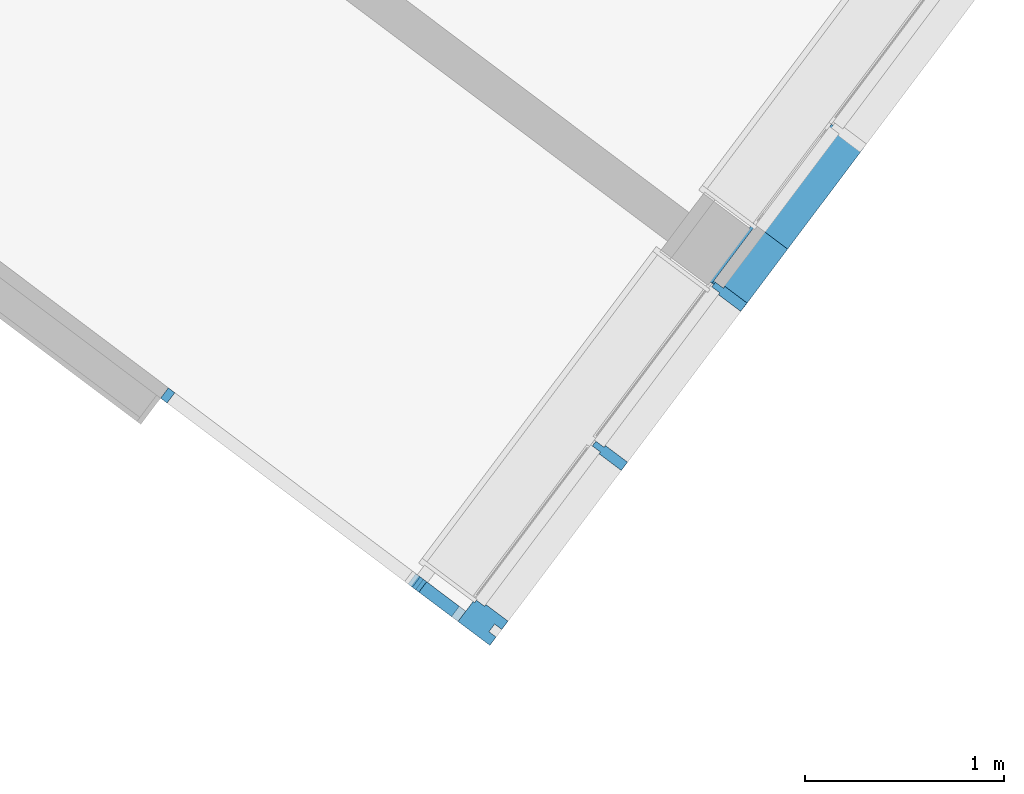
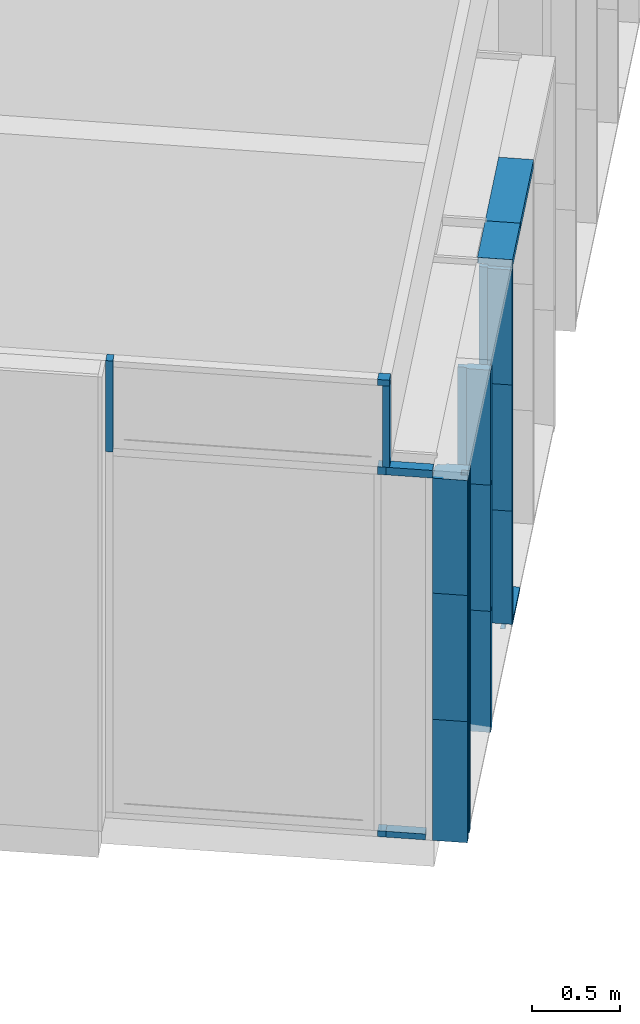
# One storey, part 84 of 243: 19 members, 2 elements without a shape of their own.
"""IFC2X3 building model written with IfcOpenShell, lengths in metres."""

from ifc_helpers import new_model, entity, si_unit, converted_unit, derived_unit, direction, frame, frame_2d, origin, origin_2d_with_axis, place, context, subcontext, project, spatial, polyline, circle_curve, parameter, trimmed, segment, composite_curve, rectangle, outline, extrude, source, transform, mapped, material, type_object, type_shapes, element, aggregate, save


model = new_model("IFC2X3")

# Units and contexts
model_context = context("Model", 3, precision=1e-05, world=origin(), true_north=direction((6.123031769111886e-17, 1.0)))
body_context = subcontext(model_context, "Body", "Model", "MODEL_VIEW")
ifc_project = project(units=[si_unit("LENGTHUNIT", "METRE"), si_unit("AREAUNIT", "SQUARE_METRE"), si_unit("VOLUMEUNIT", "CUBIC_METRE"), converted_unit("PLANEANGLEUNIT", "DEGREE", entity("IfcRatioMeasure", 0.017453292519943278), si_unit("PLANEANGLEUNIT", "RADIAN"), dimensions=[0, 0, 0, 0, 0, 0, 0]), si_unit("MASSUNIT", "GRAM", prefix="KILO"), derived_unit("MASSDENSITYUNIT", [(si_unit("MASSUNIT", "GRAM", prefix="KILO"), 1), (si_unit("LENGTHUNIT", "METRE"), -3)]), derived_unit("IONCONCENTRATIONUNIT", [(si_unit("MASSUNIT", "GRAM", prefix="KILO"), 1), (si_unit("LENGTHUNIT", "METRE"), -3)]), derived_unit("MOMENTOFINERTIAUNIT", [(si_unit("LENGTHUNIT", "METRE"), 4)]), si_unit("TIMEUNIT", "SECOND"), si_unit("FREQUENCYUNIT", "HERTZ"), si_unit("THERMODYNAMICTEMPERATUREUNIT", "DEGREE_CELSIUS"), derived_unit("THERMALTRANSMITTANCEUNIT", [(si_unit("MASSUNIT", "GRAM", prefix="KILO"), 1), (si_unit("THERMODYNAMICTEMPERATUREUNIT", "KELVIN"), -1), (si_unit("TIMEUNIT", "SECOND"), -3)]), derived_unit("THERMALCONDUCTANCEUNIT", [(si_unit("MASSUNIT", "GRAM", prefix="KILO"), 1), (si_unit("THERMODYNAMICTEMPERATUREUNIT", "KELVIN"), -1), (si_unit("TIMEUNIT", "SECOND"), -3), (si_unit("LENGTHUNIT", "METRE"), 1)]), derived_unit("VOLUMETRICFLOWRATEUNIT", [(si_unit("LENGTHUNIT", "METRE"), 3), (si_unit("TIMEUNIT", "SECOND"), -1)]), derived_unit("MASSFLOWRATEUNIT", [(si_unit("MASSUNIT", "GRAM", prefix="KILO"), 1), (si_unit("TIMEUNIT", "SECOND"), -1)]), derived_unit("ROTATIONALFREQUENCYUNIT", [(si_unit("TIMEUNIT", "SECOND"), -1)]), si_unit("ELECTRICCURRENTUNIT", "AMPERE"), si_unit("ELECTRICVOLTAGEUNIT", "VOLT"), si_unit("POWERUNIT", "WATT"), si_unit("FORCEUNIT", "NEWTON", prefix="KILO"), si_unit("ILLUMINANCEUNIT", "LUX"), si_unit("LUMINOUSFLUXUNIT", "LUMEN"), si_unit("LUMINOUSINTENSITYUNIT", "CANDELA"), derived_unit("USERDEFINED", [(si_unit("MASSUNIT", "GRAM", prefix="KILO"), -1), (si_unit("LENGTHUNIT", "METRE"), -2), (si_unit("TIMEUNIT", "SECOND"), 3), (si_unit("LUMINOUSFLUXUNIT", "LUMEN"), 1)]), derived_unit("USERDEFINED", [(si_unit("MASSUNIT", "GRAM", prefix="KILO"), 1), (si_unit("TIMEUNIT", "SECOND"), -3), (si_unit("LENGTHUNIT", "METRE"), 3), (si_unit("ELECTRICCURRENTUNIT", "AMPERE"), -2)]), derived_unit("SOUNDPOWERUNIT", [(si_unit("MASSUNIT", "GRAM", prefix="KILO"), 1), (si_unit("TIMEUNIT", "SECOND"), -3), (si_unit("LENGTHUNIT", "METRE"), 2)]), derived_unit("SOUNDPRESSUREUNIT", [(si_unit("MASSUNIT", "GRAM", prefix="KILO"), 1), (si_unit("LENGTHUNIT", "METRE"), -1), (si_unit("TIMEUNIT", "SECOND"), -2)]), derived_unit("LINEARVELOCITYUNIT", [(si_unit("LENGTHUNIT", "METRE"), 1), (si_unit("TIMEUNIT", "SECOND"), -1)]), si_unit("PRESSUREUNIT", "PASCAL"), derived_unit("USERDEFINED", [(si_unit("MASSUNIT", "GRAM", prefix="KILO"), 1), (si_unit("LENGTHUNIT", "METRE"), -2), (si_unit("TIMEUNIT", "SECOND"), -2)]), derived_unit("LINEARFORCEUNIT", [(si_unit("MASSUNIT", "GRAM", prefix="KILO"), 1), (si_unit("TIMEUNIT", "SECOND"), -2)]), derived_unit("PLANARFORCEUNIT", [(si_unit("MASSUNIT", "GRAM", prefix="KILO"), 1), (si_unit("LENGTHUNIT", "METRE"), -1), (si_unit("TIMEUNIT", "SECOND"), -2)]), derived_unit("SPECIFICHEATCAPACITYUNIT", [(si_unit("THERMODYNAMICTEMPERATUREUNIT", "KELVIN"), -1), (si_unit("LENGTHUNIT", "METRE"), 2), (si_unit("TIMEUNIT", "SECOND"), -2)]), derived_unit("HEATINGVALUEUNIT", [(si_unit("LENGTHUNIT", "METRE"), 2), (si_unit("TIMEUNIT", "SECOND"), -2)]), derived_unit("VAPORPERMEABILITYUNIT", [(si_unit("LENGTHUNIT", "METRE"), -1), (si_unit("TIMEUNIT", "SECOND"), 1)]), derived_unit("DYNAMICVISCOSITYUNIT", [(si_unit("MASSUNIT", "GRAM", prefix="KILO"), 1), (si_unit("TIMEUNIT", "SECOND"), -1), (si_unit("LENGTHUNIT", "METRE"), -1)]), derived_unit("THERMALEXPANSIONCOEFFICIENTUNIT", [(si_unit("THERMODYNAMICTEMPERATUREUNIT", "KELVIN"), -1)]), derived_unit("MODULUSOFELASTICITYUNIT", [(si_unit("MASSUNIT", "GRAM", prefix="KILO"), 1), (si_unit("LENGTHUNIT", "METRE"), -1), (si_unit("TIMEUNIT", "SECOND"), -2)]), derived_unit("ISOTHERMALMOISTURECAPACITYUNIT", [(si_unit("LENGTHUNIT", "METRE"), 3), (si_unit("MASSUNIT", "GRAM", prefix="KILO"), -1)]), derived_unit("MOISTUREDIFFUSIVITYUNIT", [(si_unit("TIMEUNIT", "SECOND"), -1), (si_unit("LENGTHUNIT", "METRE"), 2)])], contexts=[model_context])

# Site, building, storey
site_placement = place(None, frame((0.0, 0.0, 235.0), z_axis=(0.0, 0.0, 1.0), x_axis=(-0.7996477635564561, 0.6004693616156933, 0.0)))
site = spatial("IfcSite", under=ifc_project, at=site_placement, Name="Default", CompositionType="ELEMENT")
building_placement = place(site_placement, origin())
building = spatial("IfcBuilding", under=site, at=building_placement, CompositionType="ELEMENT")
storey_placement = place(building_placement, origin())
storey = spatial("IfcBuildingStorey", under=building, at=storey_placement, Name="P0- Escola", CompositionType="ELEMENT", Elevation=0.0)

# Curtain wall, members
curtain_wall_type_1 = type_object("IfcCurtainWallType", Name="Muro cortina:MC- EXT- MC2", PredefinedType="NOTDEFINED")
curtain_wall_1_placement = place(storey_placement, origin())
curtain_wall_1 = element("IfcCurtainWall", 1, at=curtain_wall_1_placement, inside=storey, type_object=curtain_wall_type_1, Name="Muro cortina:MC- EXT- MC2", ObjectType="Muro cortina:MC- EXT- MC2")
ifc_material = material(Name="_Alumini- T1- Perfil")
member_type_1 = type_object("IfcMemberType", Name="Montante rectangular:MC- Alu- 140x52,5 cm- Fa patis- Centre", PredefinedType="MULLION", material=ifc_material)
shared_shape_1 = source(origin(), body_context, "Body", "SweptSolid", [
    extrude(outline(polyline([(-0.11699999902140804, -0.026250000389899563), (0.021999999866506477, -0.026250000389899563), (0.021999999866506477, -0.01500000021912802), (0.07299999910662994, -0.01500000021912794), (0.07299999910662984, 0.015000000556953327), (0.02200000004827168, 0.015000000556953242), (0.02200000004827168, 0.026250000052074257), (-0.11699999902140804, 0.026250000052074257), (-0.11699999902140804, -0.026250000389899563)])), frame((0.0, 0.022999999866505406, -0.8400000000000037), z_axis=(0.0, 0.0, 1.0), x_axis=(0.0, -1.0, 0.0)), (0.0, 0.0, 1.0), 0.8400000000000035),
])
type_shapes(member_type_1, [shared_shape_1])
member_1_placement = place(curtain_wall_1_placement, frame((28.345147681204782, -21.415191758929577, -0.02), z_axis=(0.0, 0.0, -1.0), x_axis=(0.0, -1.0, 0.0)))
member_1 = element("IfcMember", 2, at=member_1_placement, type_object=member_type_1, material=ifc_material, Name="Montante rectangular:MC- Alu- 140x52,5 cm- Fa patis- Centre", ObjectType="Montante rectangular:MC- Alu- 140x52,5 cm- Fa patis- Centre", context=body_context, shape_type="MappedRepresentation", body=[
    mapped(shared_shape_1, transform((0.0, 0.0, 0.0), scale=1.0)),
])
member_type_2 = type_object("IfcMemberType", Name="Montante rectangular:MC- Alu- 140x52,5 cm- Fa patis- Centre", PredefinedType="MULLION", material=ifc_material)
shared_shape_2 = source(origin(), body_context, "Body", "SweptSolid", [
    extrude(outline(polyline([(-0.11699999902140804, -0.026250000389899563), (0.021999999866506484, -0.026250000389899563), (0.021999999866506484, -0.01500000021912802), (0.07299999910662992, -0.01500000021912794), (0.07299999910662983, 0.015000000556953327), (0.022000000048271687, 0.015000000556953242), (0.022000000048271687, 0.026250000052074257), (-0.11699999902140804, 0.026250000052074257), (-0.11699999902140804, -0.026250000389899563)])), frame((0.0, 0.022999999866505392, -0.7850000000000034), z_axis=(0.0, 0.0, 1.0), x_axis=(0.0, -1.0, 0.0)), (0.0, 0.0, 1.0), 0.7850000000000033),
])
type_shapes(member_type_2, [shared_shape_2])
member_2_placement = place(curtain_wall_1_placement, frame((28.34514768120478, -22.415191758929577, 0.035000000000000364), z_axis=(0.0, 0.0, -1.0), x_axis=(0.0, -1.0, 0.0)))
member_2 = element("IfcMember", 3, at=member_2_placement, type_object=member_type_2, material=ifc_material, Name="Montante rectangular:MC- Alu- 140x52,5 cm- Fa patis- Centre", ObjectType="Montante rectangular:MC- Alu- 140x52,5 cm- Fa patis- Centre", context=body_context, shape_type="MappedRepresentation", body=[
    mapped(shared_shape_2, transform((0.0, 0.0, 0.0), scale=1.0)),
])
member_type_3 = type_object("IfcMemberType", Name="Montante rectangular:MC- Alu- 140x52,5 cm- Fa patis- Centre", PredefinedType="MULLION", material=ifc_material)
shared_shape_3 = source(origin(), body_context, "Body", "SweptSolid", [
    extrude(outline(polyline([(-0.11699999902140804, -0.026250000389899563), (0.021999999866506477, -0.026250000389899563), (0.021999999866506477, -0.01500000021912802), (0.07299999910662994, -0.01500000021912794), (0.07299999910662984, 0.015000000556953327), (0.02200000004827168, 0.015000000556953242), (0.02200000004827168, 0.026250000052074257), (-0.11699999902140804, 0.026250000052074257), (-0.11699999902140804, -0.026250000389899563)])), frame((0.0, 0.022999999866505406, -0.8750000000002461), z_axis=(0.0, 0.0, 1.0), x_axis=(0.0, -1.0, 0.0)), (0.0, 0.0, 1.0), 0.8750000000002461),
])
type_shapes(member_type_3, [shared_shape_3])
member_3_placement = place(curtain_wall_1_placement, frame((28.345147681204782, -21.415191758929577, 0.8200000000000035), z_axis=(0.0, 0.0, -1.0), x_axis=(0.0, -1.0, 0.0)))
member_3 = element("IfcMember", 4, at=member_3_placement, type_object=member_type_3, material=ifc_material, Name="Montante rectangular:MC- Alu- 140x52,5 cm- Fa patis- Centre", ObjectType="Montante rectangular:MC- Alu- 140x52,5 cm- Fa patis- Centre", context=body_context, shape_type="MappedRepresentation", body=[
    mapped(shared_shape_3, transform((0.0, 0.0, 0.0), scale=1.0)),
])
member_4_placement = place(curtain_wall_1_placement, frame((28.34514768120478, -22.415191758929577, 0.8200000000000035), z_axis=(0.0, 0.0, -1.0), x_axis=(0.0, -1.0, 0.0)))
member_4 = element("IfcMember", 5, at=member_4_placement, type_object=member_type_3, material=ifc_material, Name="Montante rectangular:MC- Alu- 140x52,5 cm- Fa patis- Centre", ObjectType="Montante rectangular:MC- Alu- 140x52,5 cm- Fa patis- Centre", context=body_context, shape_type="MappedRepresentation", body=[
    mapped(shared_shape_3, transform((0.0, 0.0, 0.0), scale=1.0)),
])
member_type_4 = type_object("IfcMemberType", Name="Montante rectangular:MC- Alu- 140x52,5 cm- Fa patis- Cantonada", PredefinedType="MULLION", material=ifc_material)
shared_shape_4 = source(origin(), body_context, "Body", "SweptSolid", [
    extrude(outline(polyline([(-0.09566666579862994, -0.05708333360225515), (0.04333333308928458, -0.05708333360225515), (0.04333333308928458, -0.0458333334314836), (0.09433333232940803, -0.04583333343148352), (0.09433333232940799, -0.03083333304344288), (0.10433333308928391, -0.03083333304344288), (0.10433333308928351, 0.09541666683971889), (-0.09566666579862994, 0.09541666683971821), (-0.09566666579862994, 0.042916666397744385), (-0.05066666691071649, 0.042916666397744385), (-0.050666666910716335, -0.004583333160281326), (-0.09566666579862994, -0.004583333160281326), (-0.09566666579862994, -0.05708333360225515)])), frame((-0.09541666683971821, 0.04433333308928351, -0.8400000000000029), z_axis=(0.0, 0.0, 1.0), x_axis=(0.0, -1.0, 0.0)), (0.0, 0.0, 1.0), 0.8400000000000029),
])
type_shapes(member_type_4, [shared_shape_4])
member_5_placement = place(curtain_wall_1_placement, frame((28.345147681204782, -20.288941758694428, 0.8200000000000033), z_axis=(0.0, 0.0, 1.0), x_axis=(0.0, 1.0, 0.0)))
member_5 = element("IfcMember", 6, at=member_5_placement, type_object=member_type_4, material=ifc_material, Name="Montante rectangular:MC- Alu- 140x52,5 cm- Fa patis- Cantonada", ObjectType="Montante rectangular:MC- Alu- 140x52,5 cm- Fa patis- Cantonada", context=body_context, shape_type="MappedRepresentation", body=[
    mapped(shared_shape_4, transform((0.0, 0.0, 0.0), scale=1.0)),
])
member_type_5 = type_object("IfcMemberType", Name="Montante rectangular:MC- Alu- 140x52,5 cm- Fa patis- Cantonada", PredefinedType="MULLION", material=ifc_material)
shared_shape_5 = source(origin(), body_context, "Body", "SweptSolid", [
    extrude(outline(polyline([(-0.09566666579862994, -0.05708333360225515), (0.04333333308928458, -0.05708333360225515), (0.04333333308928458, -0.0458333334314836), (0.09433333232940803, -0.04583333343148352), (0.09433333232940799, -0.03083333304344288), (0.10433333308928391, -0.03083333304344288), (0.10433333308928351, 0.09541666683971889), (-0.09566666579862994, 0.09541666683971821), (-0.09566666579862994, 0.042916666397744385), (-0.05066666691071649, 0.042916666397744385), (-0.050666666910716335, -0.004583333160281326), (-0.09566666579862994, -0.004583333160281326), (-0.09566666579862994, -0.05708333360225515)])), frame((-0.09541666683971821, 0.04433333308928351, -0.7974999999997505), z_axis=(0.0, 0.0, 1.0), x_axis=(0.0, -1.0, 0.0)), (0.0, 0.0, 1.0), 0.7974999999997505),
])
type_shapes(member_type_5, [shared_shape_5])
member_6_placement = place(curtain_wall_1_placement, frame((28.345147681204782, -20.288941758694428, 2.4924999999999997), z_axis=(0.0, 0.0, 1.0), x_axis=(0.0, 1.0, 0.0)))
member_6 = element("IfcMember", 7, at=member_6_placement, type_object=member_type_5, material=ifc_material, Name="Montante rectangular:MC- Alu- 140x52,5 cm- Fa patis- Cantonada", ObjectType="Montante rectangular:MC- Alu- 140x52,5 cm- Fa patis- Cantonada", context=body_context, shape_type="MappedRepresentation", body=[
    mapped(shared_shape_5, transform((0.0, 0.0, 0.0), scale=1.0)),
])
member_type_6 = type_object("IfcMemberType", Name="Montante rectangular:MC- Alu- 140x52,5 cm- Fa patis- Cantonada", PredefinedType="MULLION", material=ifc_material)
shared_shape_6 = source(origin(), body_context, "Body", "SweptSolid", [
    extrude(outline(polyline([(-0.09566666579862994, -0.05708333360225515), (0.04333333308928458, -0.05708333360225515), (0.04333333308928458, -0.0458333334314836), (0.09433333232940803, -0.04583333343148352), (0.09433333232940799, -0.03083333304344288), (0.10433333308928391, -0.03083333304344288), (0.10433333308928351, 0.09541666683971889), (-0.09566666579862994, 0.09541666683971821), (-0.09566666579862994, 0.042916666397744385), (-0.05066666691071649, 0.042916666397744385), (-0.050666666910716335, -0.004583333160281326), (-0.09566666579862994, -0.004583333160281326), (-0.09566666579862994, -0.05708333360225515)])), frame((-0.09541666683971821, 0.04433333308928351, -0.8750000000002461), z_axis=(0.0, 0.0, 1.0), x_axis=(0.0, -1.0, 0.0)), (0.0, 0.0, 1.0), 0.8750000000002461),
])
type_shapes(member_type_6, [shared_shape_6])
member_7_placement = place(curtain_wall_1_placement, frame((28.345147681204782, -20.288941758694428, 1.6950000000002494), z_axis=(0.0, 0.0, 1.0), x_axis=(0.0, 1.0, 0.0)))
member_7 = element("IfcMember", 8, at=member_7_placement, type_object=member_type_6, material=ifc_material, Name="Montante rectangular:MC- Alu- 140x52,5 cm- Fa patis- Cantonada", ObjectType="Montante rectangular:MC- Alu- 140x52,5 cm- Fa patis- Cantonada", context=body_context, shape_type="MappedRepresentation", body=[
    mapped(shared_shape_6, transform((0.0, 0.0, 0.0), scale=1.0)),
])
member_type_7 = type_object("IfcMemberType", Name="Montante rectangular:MC- Alu- 140x52,5 cm- Fa patis- Centre", PredefinedType="MULLION", material=ifc_material)
shared_shape_7 = source(origin(), body_context, "Body", "SweptSolid", [
    extrude(outline(polyline([(-0.11699999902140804, -0.026250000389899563), (0.021999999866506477, -0.026250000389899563), (0.021999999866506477, -0.01500000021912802), (0.07299999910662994, -0.01500000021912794), (0.07299999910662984, 0.015000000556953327), (0.02200000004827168, 0.015000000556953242), (0.02200000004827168, 0.026250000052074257), (-0.11699999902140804, 0.026250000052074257), (-0.11699999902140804, -0.026250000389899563)])), frame((0.0, 0.022999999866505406, -0.79749999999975), z_axis=(0.0, 0.0, 1.0), x_axis=(0.0, -1.0, 0.0)), (0.0, 0.0, 1.0), 0.79749999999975),
])
type_shapes(member_type_7, [shared_shape_7])
member_8_placement = place(curtain_wall_1_placement, frame((28.345147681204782, -21.415191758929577, 1.6950000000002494), z_axis=(0.0, 0.0, -1.0), x_axis=(0.0, -1.0, 0.0)))
member_8 = element("IfcMember", 9, at=member_8_placement, type_object=member_type_7, material=ifc_material, Name="Montante rectangular:MC- Alu- 140x52,5 cm- Fa patis- Centre", ObjectType="Montante rectangular:MC- Alu- 140x52,5 cm- Fa patis- Centre", context=body_context, shape_type="MappedRepresentation", body=[
    mapped(shared_shape_7, transform((0.0, 0.0, 0.0), scale=1.0)),
])
member_9_placement = place(curtain_wall_1_placement, frame((28.34514768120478, -22.415191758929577, 1.6950000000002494), z_axis=(0.0, 0.0, -1.0), x_axis=(0.0, -1.0, 0.0)))
member_9 = element("IfcMember", 10, at=member_9_placement, type_object=member_type_7, material=ifc_material, Name="Montante rectangular:MC- Alu- 140x52,5 cm- Fa patis- Centre", ObjectType="Montante rectangular:MC- Alu- 140x52,5 cm- Fa patis- Centre", context=body_context, shape_type="MappedRepresentation", body=[
    mapped(shared_shape_7, transform((0.0, 0.0, 0.0), scale=1.0)),
])

curtain_wall_type_2 = type_object("IfcCurtainWallType", Name="Muro cortina:MC- EXT- AL1- Fa porxo", PredefinedType="NOTDEFINED")
curtain_wall_2_placement = place(storey_placement, origin())
curtain_wall_2 = element("IfcCurtainWall", 11, at=curtain_wall_2_placement, inside=storey, type_object=curtain_wall_type_2, Name="Muro cortina:MC- EXT- AL1- Fa porxo", ObjectType="Muro cortina:MC- EXT- AL1- Fa porxo")
member_type_8 = type_object("IfcMemberType", Name="Montante rectangular:MC- Alu- 65x41 cm- Fa Porxo- Centre", PredefinedType="MULLION", material=ifc_material)
shared_shape_8 = source(origin(), body_context, "Body", "SweptSolid", [
    extrude(rectangle(XDim=0.06500000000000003, YDim=0.04100000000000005, at=frame_2d((0.0, 5.204170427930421e-18), x_axis=(1.0, 0.0))), frame((-0.020499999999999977, 0.032499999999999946, -0.22566666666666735), z_axis=(0.0, 0.0, 1.0), x_axis=(0.0, -1.0, 0.0)), (0.0, 0.0, 1.0), 0.22566666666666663),
])
type_shapes(member_type_8, [shared_shape_8])
member_10_placement = place(curtain_wall_2_placement, frame((28.44614768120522, -20.288941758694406, -0.020000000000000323), z_axis=(-1.0, 0.0, 0.0), x_axis=(0.0, 0.0, -1.0)))
member_10 = element("IfcMember", 12, at=member_10_placement, type_object=member_type_8, material=ifc_material, Name="Montante rectangular:MC- Alu- 65x41 cm- Fa Porxo- Centre", ObjectType="Montante rectangular:MC- Alu- 65x41 cm- Fa Porxo- Centre", context=body_context, shape_type="MappedRepresentation", body=[
    mapped(shared_shape_8, transform((0.0, 0.0, 0.0), scale=1.0)),
])
member_type_9 = type_object("IfcMemberType", Name="Montante rectangular:MC- Alu- 65x41 cm- Fa Porxo- Centre", PredefinedType="MULLION", material=ifc_material)
shared_shape_9 = source(origin(), body_context, "Body", "SweptSolid", [
    extrude(rectangle(XDim=0.06500000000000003, YDim=0.041000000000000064, at=origin_2d_with_axis()), frame((-0.02050000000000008, 0.032499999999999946, -0.6312500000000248), z_axis=(0.0, 0.0, 1.0), x_axis=(0.0, -1.0, 0.0)), (0.0, 0.0, 1.0), 0.6312500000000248),
])
type_shapes(member_type_9, [shared_shape_9])
member_11_placement = place(curtain_wall_2_placement, frame((30.275143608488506, -20.288941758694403, 2.51875), z_axis=(0.0, 0.0, -1.0), x_axis=(1.0, 0.0, 0.0)))
member_11 = element("IfcMember", 13, at=member_11_placement, type_object=member_type_9, material=ifc_material, Name="Montante rectangular:MC- Alu- 65x41 cm- Fa Porxo- Centre", ObjectType="Montante rectangular:MC- Alu- 65x41 cm- Fa Porxo- Centre", context=body_context, shape_type="MappedRepresentation", body=[
    mapped(shared_shape_9, transform((0.0, 0.0, 0.0), scale=1.0)),
])
member_type_10 = type_object("IfcMemberType", Name="Montante rectangular:MC- Alu- 65x52,5 cm- Fa Porxo- Centre", PredefinedType="MULLION", material=ifc_material)
shared_shape_10 = source(origin(), body_context, "Body", "SweptSolid", [
    extrude(rectangle(XDim=0.06500000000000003, YDim=0.053000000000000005, at=frame_2d((3.469446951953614e-18, 5.204170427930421e-18), x_axis=(1.0, 0.0))), frame((0.0, 0.03249999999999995, -0.26666666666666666), z_axis=(0.0, 0.0, 1.0), x_axis=(0.0, -1.0, 0.0)), (0.0, 0.0, 1.0), 0.26666666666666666),
])
type_shapes(member_type_10, [shared_shape_10])
member_12_placement = place(curtain_wall_2_placement, frame((28.671814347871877, -20.288941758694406, 2.51875), z_axis=(1.0, 0.0, 0.0), x_axis=(0.0, 0.0, 1.0)))
member_12 = element("IfcMember", 14, at=member_12_placement, type_object=member_type_10, material=ifc_material, Name="Montante rectangular:MC- Alu- 65x52,5 cm- Fa Porxo- Centre", ObjectType="Montante rectangular:MC- Alu- 65x52,5 cm- Fa Porxo- Centre", context=body_context, shape_type="MappedRepresentation", body=[
    mapped(shared_shape_10, transform((0.0, 0.0, 0.0), scale=1.0)),
])
member_type_11 = type_object("IfcMemberType", Name="Montante rectangular:MC- Alu- 65x41 cm- Fa Porxo- Centre", PredefinedType="MULLION", material=ifc_material)
shared_shape_11 = source(origin(), body_context, "Body", "SweptSolid", [
    extrude(rectangle(XDim=0.06500000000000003, YDim=0.041000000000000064, at=origin_2d_with_axis()), frame((-0.02050000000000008, 0.03249999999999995, -0.06833333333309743), z_axis=(0.0, 0.0, 1.0), x_axis=(0.0, -1.0, 0.0)), (0.0, 0.0, 1.0), 0.06833333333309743),
])
type_shapes(member_type_11, [shared_shape_11])
member_13_placement = place(curtain_wall_2_placement, frame((28.719647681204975, -20.288941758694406, 3.150000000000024), z_axis=(1.0, 0.0, 0.0), x_axis=(0.0, 0.0, 1.0)))
member_13 = element("IfcMember", 15, at=member_13_placement, type_object=member_type_11, material=ifc_material, Name="Montante rectangular:MC- Alu- 65x41 cm- Fa Porxo- Centre", ObjectType="Montante rectangular:MC- Alu- 65x41 cm- Fa Porxo- Centre", context=body_context, shape_type="MappedRepresentation", body=[
    mapped(shared_shape_11, transform((0.0, 0.0, 0.0), scale=1.0)),
])
member_type_12 = type_object("IfcMemberType", Name="Montante rectangular:MC- Alu- 65x41 cm- Fa Porxo- Centre", PredefinedType="MULLION", material=ifc_material)
shared_shape_12 = source(origin(), body_context, "Body", "SweptSolid", [
    extrude(rectangle(XDim=0.06500000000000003, YDim=0.041000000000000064, at=frame_2d((0.0, 3.469446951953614e-18), x_axis=(1.0, 0.0))), frame((-0.02049999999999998, 0.032499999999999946, -0.04783333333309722), z_axis=(0.0, 0.0, 1.0), x_axis=(0.0, -1.0, 0.0)), (0.0, 0.0, 1.0), 0.04783333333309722),
])
type_shapes(member_type_12, [shared_shape_12])
member_14_placement = place(curtain_wall_2_placement, frame((28.671814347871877, -20.288941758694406, -0.02000000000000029), z_axis=(-1.0, 0.0, 0.0), x_axis=(0.0, 0.0, -1.0)))
member_14 = element("IfcMember", 16, at=member_14_placement, type_object=member_type_12, material=ifc_material, Name="Montante rectangular:MC- Alu- 65x41 cm- Fa Porxo- Centre", ObjectType="Montante rectangular:MC- Alu- 65x41 cm- Fa Porxo- Centre", context=body_context, shape_type="MappedRepresentation", body=[
    mapped(shared_shape_12, transform((0.0, 0.0, 0.0), scale=1.0)),
])
member_type_13 = type_object("IfcMemberType", Name="Montante rectangular:MC- Alu- 65x52,5 cm- Fa Porxo- Centre", PredefinedType="MULLION", material=ifc_material)
shared_shape_13 = source(origin(), body_context, "Body", "SweptSolid", [
    extrude(rectangle(XDim=0.06500000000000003, YDim=0.053000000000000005, at=frame_2d((3.469446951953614e-18, 5.204170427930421e-18), x_axis=(1.0, 0.0))), frame((0.0, 0.03249999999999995, -0.04783333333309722), z_axis=(0.0, 0.0, 1.0), x_axis=(0.0, -1.0, 0.0)), (0.0, 0.0, 1.0), 0.04783333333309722),
])
type_shapes(member_type_13, [shared_shape_13])
member_15_placement = place(curtain_wall_2_placement, frame((28.719647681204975, -20.288941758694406, 2.51875), z_axis=(1.0, 0.0, 0.0), x_axis=(0.0, 0.0, 1.0)))
member_15 = element("IfcMember", 17, at=member_15_placement, type_object=member_type_13, material=ifc_material, Name="Montante rectangular:MC- Alu- 65x52,5 cm- Fa Porxo- Centre", ObjectType="Montante rectangular:MC- Alu- 65x52,5 cm- Fa Porxo- Centre", context=body_context, shape_type="MappedRepresentation", body=[
    mapped(shared_shape_13, transform((0.0, 0.0, 0.0), scale=1.0)),
])
member_type_14 = type_object("IfcMemberType", Name="Montante rectangular:MC- Alu- 65x41 cm- Fa Porxo- Centre", PredefinedType="MULLION", material=ifc_material)
shared_shape_14 = source(origin(), body_context, "Body", "SweptSolid", [
    extrude(rectangle(XDim=0.06500000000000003, YDim=0.04100000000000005, at=frame_2d((3.469446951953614e-18, 6.938893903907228e-18), x_axis=(1.0, 0.0))), frame((0.0, 0.03249999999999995, -0.5637500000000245), z_axis=(0.0, 0.0, 1.0), x_axis=(0.0, -1.0, 0.0)), (0.0, 0.0, 1.0), 0.5637500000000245),
])
type_shapes(member_type_14, [shared_shape_14])
member_16_placement = place(curtain_wall_2_placement, frame((28.671814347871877, -20.288941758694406, 2.54525), z_axis=(0.0, 0.0, -1.0), x_axis=(1.0, 0.0, 0.0)))
member_16 = element("IfcMember", 18, at=member_16_placement, type_object=member_type_14, material=ifc_material, Name="Montante rectangular:MC- Alu- 65x41 cm- Fa Porxo- Centre", ObjectType="Montante rectangular:MC- Alu- 65x41 cm- Fa Porxo- Centre", context=body_context, shape_type="MappedRepresentation", body=[
    mapped(shared_shape_14, transform((0.0, 0.0, 0.0), scale=1.0)),
])
aggregate(curtain_wall_2, [member_10, member_11, member_12, member_13, member_14, member_15, member_16])

# Member
member_type_15 = type_object("IfcMemberType", Name="Montante rectangular:MC- Alu- 140x52,5 cm- Fa patis- inferior", PredefinedType="MULLION", material=ifc_material)
shared_shape_15 = source(origin(), body_context, "Body", "SweptSolid", [
    extrude(outline(composite_curve([segment(polyline([(0.1278672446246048, -0.0258671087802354), (0.14416724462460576, -0.025867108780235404)]), True, "CONTINUOUS"), segment(polyline([(0.14416724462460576, -0.025867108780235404), (0.1441672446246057, 0.009132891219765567)]), True, "CONTINUOUS"), segment(polyline([(0.1441672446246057, 0.009132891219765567), (0.06786724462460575, 0.009132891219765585)]), True, "CONTINUOUS"), segment(polyline([(0.06786724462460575, 0.009132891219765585), (0.06786724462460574, -0.021159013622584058)]), True, "CONTINUOUS"), segment(polyline([(0.06786724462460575, -0.02115901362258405), (-0.030132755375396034, -0.012332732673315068)]), True, "CONTINUOUS"), segment(polyline([(-0.03013275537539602, -0.012332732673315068), (-0.030132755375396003, 0.027132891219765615)]), True, "CONTINUOUS"), segment(polyline([(-0.030132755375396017, 0.02713289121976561), (-0.0021327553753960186, 0.0271328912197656)]), True, "CONTINUOUS"), segment(polyline([(-0.0021327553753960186, 0.027132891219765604), (-0.0021327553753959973, 0.029132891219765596)]), True, "CONTINUOUS"), segment(polyline([(-0.0021327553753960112, 0.029132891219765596), (-0.032132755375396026, 0.029132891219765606)]), True, "CONTINUOUS"), segment(polyline([(-0.032132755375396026, 0.029132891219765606), (-0.03213275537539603, -0.012152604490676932)]), True, "CONTINUOUS"), segment(polyline([(-0.03213275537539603, -0.012152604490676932), (-0.0701327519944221, -0.008730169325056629)]), True, "CONTINUOUS"), segment(polyline([(-0.0701327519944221, -0.008730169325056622), (-0.0701327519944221, 0.005766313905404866)]), True, "CONTINUOUS"), segment(trimmed(circle_curve(frame_2d((-0.0696327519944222, 0.005766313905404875), x_axis=(-1.0, 0.0)), 0.0004999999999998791), [parameter(269.999999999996)], [parameter(0.0)], True, "PARAMETER"), False, "CONTINUOUS"), segment(polyline([(-0.0696327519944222, 0.00626631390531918), (-0.06213275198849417, 0.006266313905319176)]), True, "CONTINUOUS"), segment(polyline([(-0.06213275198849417, 0.006266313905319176), (-0.06213275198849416, 0.008266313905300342)]), True, "CONTINUOUS"), segment(polyline([(-0.06213275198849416, 0.008266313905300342), (-0.07013275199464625, 0.008266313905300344)]), True, "CONTINUOUS"), segment(trimmed(circle_curve(frame_2d((-0.07013275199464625, 0.006266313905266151), x_axis=(0.0, 1.0)), 0.0020000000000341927), [parameter(0.0)], [parameter(90.00000002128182)], True, "PARAMETER"), True, "CONTINUOUS"), segment(polyline([(-0.07213275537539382, 0.006266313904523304), (-0.07213275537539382, -0.008730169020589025)]), True, "CONTINUOUS"), segment(trimmed(circle_curve(frame_2d((-0.0701327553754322, -0.00873016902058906), x_axis=(-1.0, 0.0)), 0.0019999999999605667), [parameter(0.0)], [parameter(84.85359280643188)], True, "PARAMETER"), True, "CONTINUOUS"), segment(polyline([(-0.07031215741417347, -0.01072210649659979), (0.06786724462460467, -0.023167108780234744)]), True, "CONTINUOUS"), segment(polyline([(0.06786724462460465, -0.023167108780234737), (0.12786724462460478, -0.023167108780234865)]), True, "CONTINUOUS"), segment(polyline([(0.12786724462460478, -0.023167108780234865), (0.1278672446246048, -0.0258671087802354)]), True, "CONTINUOUS")], self_intersect=False)), frame((-0.029132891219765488, 0.06786724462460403, -0.3655321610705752), z_axis=(0.0, 0.0, 1.0), x_axis=(0.0, -1.0, 0.0)), (0.0, 0.0, 1.0), 0.3655321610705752),
])
type_shapes(member_type_15, [shared_shape_15])
member_17_placement = place(curtain_wall_1_placement, frame((28.34514768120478, -22.415191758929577, -0.02), z_axis=(0.0, 1.0, 0.0), x_axis=(0.0, 0.0, -1.0)))
member_17 = element("IfcMember", 19, at=member_17_placement, type_object=member_type_15, material=ifc_material, Name="Montante rectangular:MC- Alu- 140x52,5 cm- Fa patis- inferior", ObjectType="Montante rectangular:MC- Alu- 140x52,5 cm- Fa patis- inferior", context=body_context, shape_type="MappedRepresentation", body=[
    mapped(shared_shape_15, transform((0.0, 0.0, 0.0), scale=1.0)),
])

member_type_16 = type_object("IfcMemberType", Name="Montante rectangular:MC- Alu- 140x52,5 cm- Fa patis- Superior", PredefinedType="MULLION", material=ifc_material)
shared_shape_16 = source(origin(), body_context, "Body", "SweptSolid", [
    extrude(outline(polyline([(-0.11366666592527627, -0.021249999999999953), (0.02633333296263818, -0.021249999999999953), (0.02633333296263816, -0.010000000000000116), (0.08733333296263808, -0.010000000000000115), (0.08733333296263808, 0.03125000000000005), (-0.11366666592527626, 0.031250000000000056), (-0.11366666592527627, -0.021249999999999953)])), frame((-0.031250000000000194, 0.027333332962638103, -0.6344678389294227), z_axis=(0.0, 0.0, 1.0), x_axis=(0.0, -1.0, 0.0)), (0.0, 0.0, 1.0), 0.6344678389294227),
])
type_shapes(member_type_16, [shared_shape_16])
member_18_placement = place(curtain_wall_1_placement, frame((28.34514768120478, -23.415191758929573, 2.545), z_axis=(0.0, -1.0, 0.0), x_axis=(0.0, 0.0, 1.0)))
member_18 = element("IfcMember", 20, at=member_18_placement, type_object=member_type_16, material=ifc_material, Name="Montante rectangular:MC- Alu- 140x52,5 cm- Fa patis- Superior", ObjectType="Montante rectangular:MC- Alu- 140x52,5 cm- Fa patis- Superior", context=body_context, shape_type="MappedRepresentation", body=[
    mapped(shared_shape_16, transform((0.0, 0.0, 0.0), scale=1.0)),
])

member_type_17 = type_object("IfcMemberType", Name="Montante rectangular:MC- Alu- 140x52,5 cm- Fa patis- Superior", PredefinedType="MULLION", material=ifc_material)
shared_shape_17 = source(origin(), body_context, "Body", "SweptSolid", [
    extrude(outline(polyline([(-0.11366666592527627, -0.021249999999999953), (0.02633333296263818, -0.021249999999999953), (0.02633333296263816, -0.010000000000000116), (0.08733333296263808, -0.010000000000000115), (0.08733333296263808, 0.03125000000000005), (-0.11366666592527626, 0.031250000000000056), (-0.11366666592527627, -0.021249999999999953)])), frame((-0.031250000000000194, 0.027333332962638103, -0.3655321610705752), z_axis=(0.0, 0.0, 1.0), x_axis=(0.0, -1.0, 0.0)), (0.0, 0.0, 1.0), 0.3655321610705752),
])
type_shapes(member_type_17, [shared_shape_17])
member_19_placement = place(curtain_wall_1_placement, frame((28.34514768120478, -22.780723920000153, 2.545), z_axis=(0.0, -1.0, 0.0), x_axis=(0.0, 0.0, 1.0)))
member_19 = element("IfcMember", 21, at=member_19_placement, type_object=member_type_17, material=ifc_material, Name="Montante rectangular:MC- Alu- 140x52,5 cm- Fa patis- Superior", ObjectType="Montante rectangular:MC- Alu- 140x52,5 cm- Fa patis- Superior", context=body_context, shape_type="MappedRepresentation", body=[
    mapped(shared_shape_17, transform((0.0, 0.0, 0.0), scale=1.0)),
])

aggregate(curtain_wall_1, [member_1, member_17, member_2, member_18, member_19, member_3, member_4, member_5, member_6, member_7, member_8, member_9])

save(model, "model.ifc")
